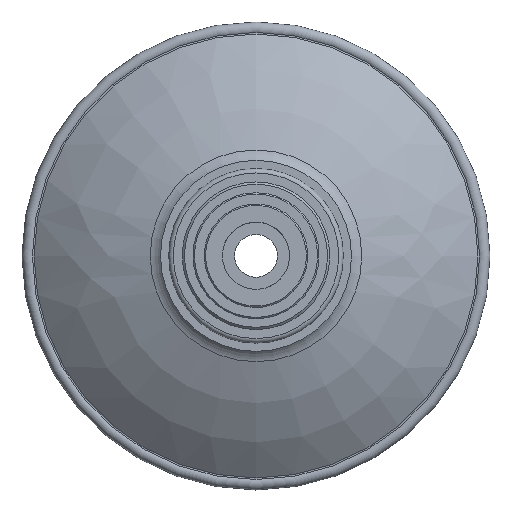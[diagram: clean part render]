
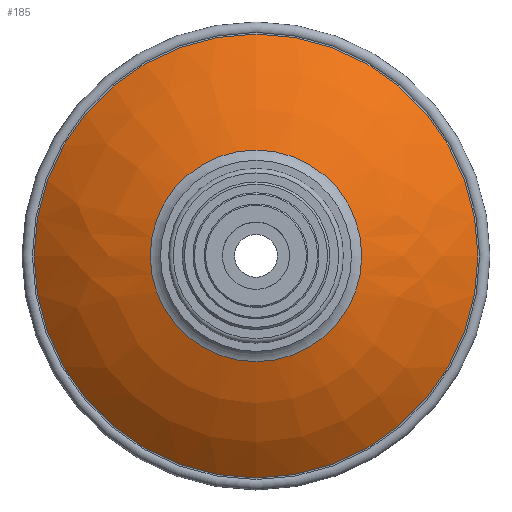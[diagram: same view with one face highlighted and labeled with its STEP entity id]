
A CAD part, top view. The second image highlights one B-rep face of the part: STEP entity #185.
In plain terms, the highlighted free-form (B-spline) face has degree [3, 3] with [4, 7] control points.
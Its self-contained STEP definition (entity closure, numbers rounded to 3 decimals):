
#185 = ADVANCED_FACE( '', ( #403, #404 ), #405, .T. );
#403 = FACE_OUTER_BOUND( '', #682, .T. );
#404 = FACE_OUTER_BOUND( '', #683, .T. );
#405 = ( BOUNDED_SURFACE(  )B_SPLINE_SURFACE( 3, 3, ( ( #686, #687, #688, #689, #690, #691, #692 ), ( #693, #694, #695, #696, #697, #698, #699 ), ( #700, #701, #702, #703, #704, #705, #706 ), ( #707, #708, #709, #710, #711, #712, #713 ) ), .UNSPECIFIED., .F., .T., .F. )B_SPLINE_SURFACE_WITH_KNOTS( ( 4, 4 ), ( 4, 3, 4 ), ( 0., 6.283 ), ( 0.856, 1.069, 1.281 ), .UNSPECIFIED. )GEOMETRIC_REPRESENTATION_ITEM(  )RATIONAL_B_SPLINE_SURFACE( ( ( 1., 0.333, 0.333, 1., 0.333, 0.333, 1. ), ( 0.985, 0.328, 0.328, 0.985, 0.328, 0.328, 0.985 ), ( 0.985, 0.328, 0.328, 0.985, 0.328, 0.328, 0.985 ), ( 1., 0.333, 0.333, 1., 0.333, 0.333, 1. ) ) )REPRESENTATION_ITEM( '' )SURFACE(  ) );
#682 = EDGE_LOOP( '', ( #1059 ) );
#683 = EDGE_LOOP( '', ( #1060 ) );
#686 = CARTESIAN_POINT( '', ( 23.489, 0., 2.656 ) );
#687 = CARTESIAN_POINT( '', ( 23.489, 47.024, 2.656 ) );
#688 = CARTESIAN_POINT( '', ( -23.535, 47.024, 2.656 ) );
#689 = CARTESIAN_POINT( '', ( -23.535, 0., 2.656 ) );
#690 = CARTESIAN_POINT( '', ( -23.535, -47.024, 2.656 ) );
#691 = CARTESIAN_POINT( '', ( 23.489, -47.024, 2.656 ) );
#692 = CARTESIAN_POINT( '', ( 23.489, 0., 2.656 ) );
#693 = CARTESIAN_POINT( '', ( 33.037, 0., -0.186 ) );
#694 = CARTESIAN_POINT( '', ( 33.037, 66.12, -0.186 ) );
#695 = CARTESIAN_POINT( '', ( -33.083, 66.12, -0.186 ) );
#696 = CARTESIAN_POINT( '', ( -33.083, 0., -0.186 ) );
#697 = CARTESIAN_POINT( '', ( -33.083, -66.12, -0.186 ) );
#698 = CARTESIAN_POINT( '', ( 33.037, -66.12, -0.186 ) );
#699 = CARTESIAN_POINT( '', ( 33.037, 0., -0.186 ) );
#700 = CARTESIAN_POINT( '', ( 41.769, 0., -4.982 ) );
#701 = CARTESIAN_POINT( '', ( 41.769, 83.584, -4.982 ) );
#702 = CARTESIAN_POINT( '', ( -41.815, 83.584, -4.982 ) );
#703 = CARTESIAN_POINT( '', ( -41.815, 0., -4.982 ) );
#704 = CARTESIAN_POINT( '', ( -41.815, -83.584, -4.982 ) );
#705 = CARTESIAN_POINT( '', ( 41.769, -83.584, -4.982 ) );
#706 = CARTESIAN_POINT( '', ( 41.769, 0., -4.982 ) );
#707 = CARTESIAN_POINT( '', ( 49.29, 0., -11.514 ) );
#708 = CARTESIAN_POINT( '', ( 49.29, 98.627, -11.514 ) );
#709 = CARTESIAN_POINT( '', ( -49.337, 98.627, -11.514 ) );
#710 = CARTESIAN_POINT( '', ( -49.337, 0., -11.514 ) );
#711 = CARTESIAN_POINT( '', ( -49.337, -98.627, -11.514 ) );
#712 = CARTESIAN_POINT( '', ( 49.29, -98.627, -11.514 ) );
#713 = CARTESIAN_POINT( '', ( 49.29, 0., -11.514 ) );
#1059 = ORIENTED_EDGE( '', *, *, #1190, .T. );
#1060 = ORIENTED_EDGE( '', *, *, #1247, .F. );
#1190 = EDGE_CURVE( '', #1325, #1325, #1326, .T. );
#1247 = EDGE_CURVE( '', #1412, #1412, #1413, .T. );
#1325 = VERTEX_POINT( '', #1493 );
#1326 = CIRCLE( '', #1494, 49.314 );
#1412 = VERTEX_POINT( '', #1580 );
#1413 = CIRCLE( '', #1581, 23.512 );
#1493 = CARTESIAN_POINT( '', ( 49.29, 0., -11.514 ) );
#1494 = AXIS2_PLACEMENT_3D( '', #1671, #1672, #1673 );
#1580 = CARTESIAN_POINT( '', ( 23.489, 0., 2.656 ) );
#1581 = AXIS2_PLACEMENT_3D( '', #1761, #1762, #1763 );
#1671 = CARTESIAN_POINT( '', ( -0.023, 0., -11.514 ) );
#1672 = DIRECTION( '', ( 0., 0., 1. ) );
#1673 = DIRECTION( '', ( 1., 0., 0. ) );
#1761 = CARTESIAN_POINT( '', ( -0.023, 0., 2.656 ) );
#1762 = DIRECTION( '', ( 0., 0., 1. ) );
#1763 = DIRECTION( '', ( 1., 0., 0. ) );
